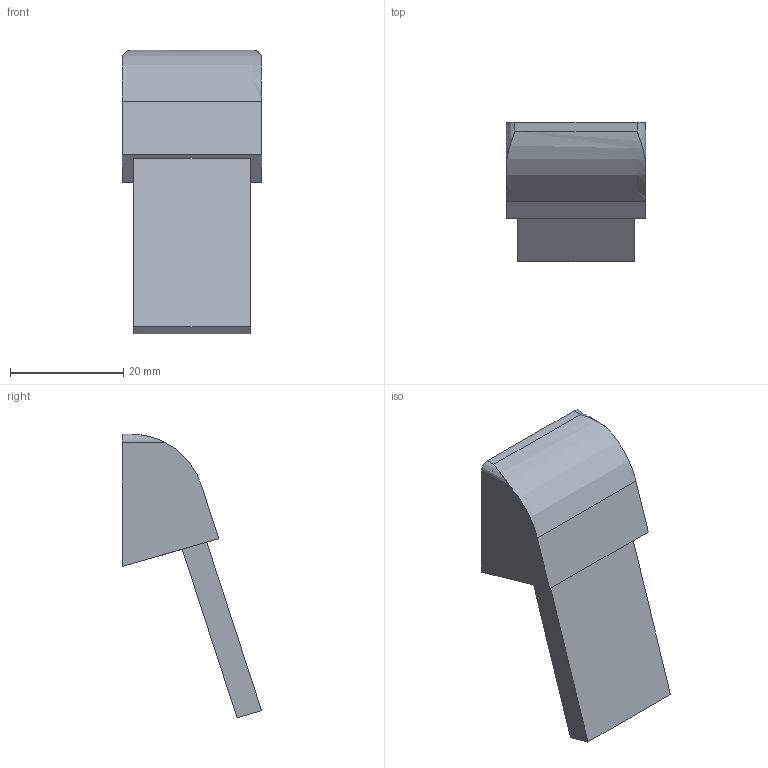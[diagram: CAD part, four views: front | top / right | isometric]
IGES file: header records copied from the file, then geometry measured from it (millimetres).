
Start section: Data from Parasolid IGES Translator 15.0.47, Copyright(c) 2006 Siemens P LM Software. All Rights Reserved.
Global section: file name: 9113451.igs; native system:  By UGS Corp.; preprocessor: XPlus GENERIC/IGES 3.0; author: Noname; organization: Noname; date: 20140122.104108; units: millimetre
Bounding box: 24.6 x 24.54 x 50 mm (x, y, z)
Surface area: 3914.8 mm2 (no closed solid volume)
Topology: 0 solids, 0 shells, 16 faces, 72 edges, 72 vertices
Faces by surface type: extrusion 12, revolution 4
